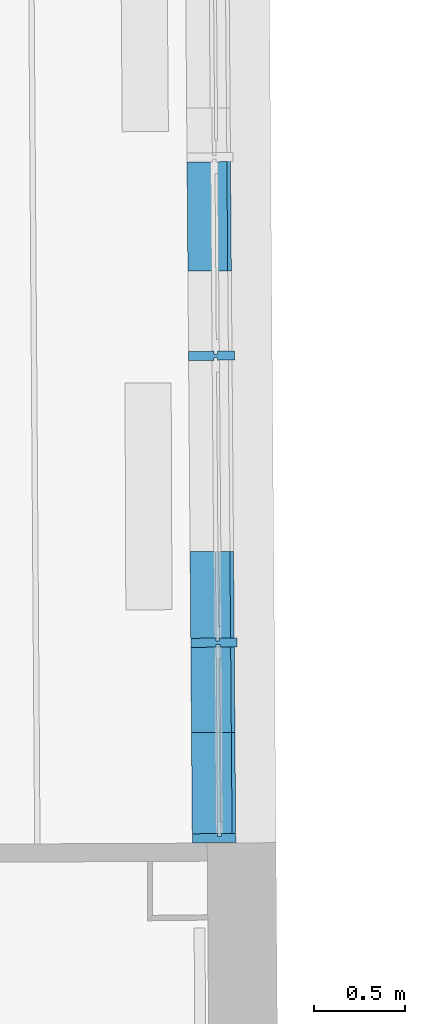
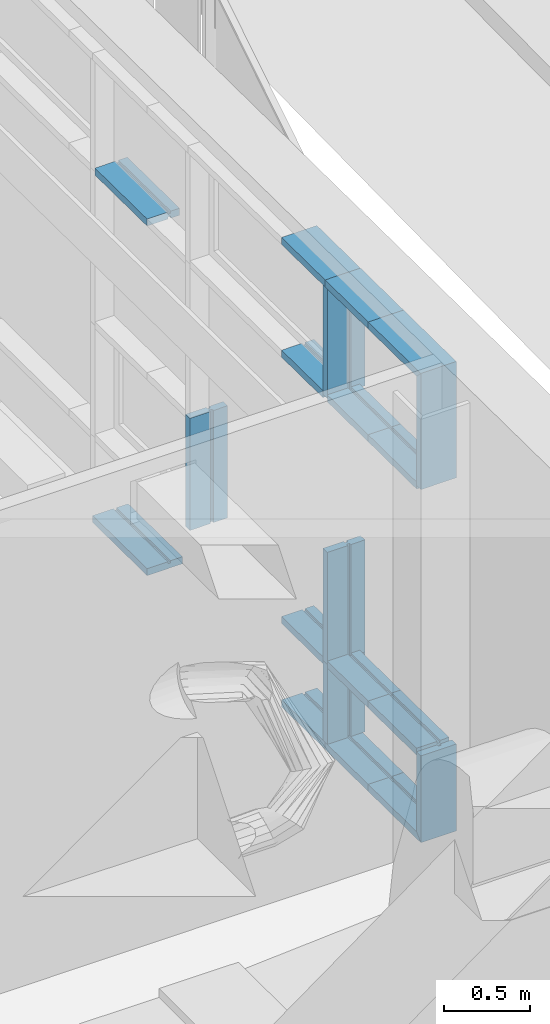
# One storey, part 119 of 158: 20 building element parts, 1 element without a shape of its own.
"""IFC2X3 building model written with IfcOpenShell, lengths in metres."""

from ifc_helpers import new_model, entity, si_unit, converted_unit, derived_unit, money_unit, direction, frame, origin_with_axes, place, context, subcontext, project, spatial, faceted_brep, material, type_object, element, aggregate, save


model = new_model("IFC2X3")

# Units and contexts
model_context = context("Model", 3, precision=1e-05, world=origin_with_axes(), true_north=direction((0.0, 1.0)))
body_context = subcontext(model_context, "Body", "Model", "MODEL_VIEW")
ifc_project = project(units=[si_unit("LENGTHUNIT", "METRE"), si_unit("AREAUNIT", "SQUARE_METRE"), si_unit("VOLUMEUNIT", "CUBIC_METRE"), converted_unit("PLANEANGLEUNIT", "DEGREE", entity("IfcPlaneAngleMeasure", 0.0174532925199), si_unit("PLANEANGLEUNIT", "RADIAN"), dimensions=[0, 0, 0, 0, 0, 0, 0]), money_unit("EUR"), converted_unit("TIMEUNIT", "Year", entity("IfcTimeMeasure", 31556926.0), si_unit("TIMEUNIT", "SECOND"), dimensions=[0, 0, 1, 0, 0, 0, 0]), si_unit("MASSUNIT", "GRAM", prefix="KILO"), si_unit("THERMODYNAMICTEMPERATUREUNIT", "DEGREE_CELSIUS"), si_unit("LUMINOUSINTENSITYUNIT", "LUMEN"), si_unit("ENERGYUNIT", "JOULE", prefix="MEGA"), derived_unit("THERMALCONDUCTANCEUNIT", [(si_unit("POWERUNIT", "WATT"), 1), (si_unit("LENGTHUNIT", "METRE"), -1), (si_unit("THERMODYNAMICTEMPERATUREUNIT", "KELVIN"), -1)]), derived_unit("SPECIFICHEATCAPACITYUNIT", [(si_unit("ENERGYUNIT", "JOULE"), 1), (si_unit("MASSUNIT", "GRAM", prefix="KILO"), -1), (si_unit("THERMODYNAMICTEMPERATUREUNIT", "KELVIN"), -1)]), derived_unit("MASSDENSITYUNIT", [(si_unit("MASSUNIT", "GRAM", prefix="KILO"), 1), (si_unit("VOLUMEUNIT", "CUBIC_METRE"), -1)])], contexts=[model_context])

# Site, building, storey
site_placement = place(None, origin_with_axes())
site = spatial("IfcSite", under=ifc_project, at=site_placement, Name="Gelände", CompositionType="ELEMENT")
building_placement = place(site_placement, origin_with_axes())
building = spatial("IfcBuilding", under=site, at=building_placement, Name="Gebäude", CompositionType="ELEMENT")
storey_placement = place(building_placement, origin_with_axes())
storey = spatial("IfcBuildingStorey", under=building, at=storey_placement, Name="ERDGESCHOSS", CompositionType="ELEMENT", Elevation=0.0)

# Proxy, building element parts
building_element_proxy_type = type_object("IfcBuildingElementProxyType", Name="Fassadentyp", PredefinedType="NOTDEFINED")
proxy_placement = place(storey_placement, frame((-15.5457352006, 40.9565245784, 1.34043905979), z_axis=(0.0, 0.0, 1.0), x_axis=(1.0, 0.0, 0.0)))
proxy = element("IfcBuildingElementProxy", 1, at=proxy_placement, inside=storey, type_object=building_element_proxy_type, Name="Fassade-002")
ifc_material = material(Name="53_Metall, Aluminium")
building_element_part_1_placement = place(proxy_placement, origin_with_axes())
building_element_part_1 = element("IfcBuildingElementPart", 2, at=building_element_part_1_placement, material=ifc_material, Name="53_Metall, Aluminium", context=body_context, shape_type="Brep", body=[
    faceted_brep([(0.0248470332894, -4.47847925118, 1.41999994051), (0.0448464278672, -4.4783236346, 1.41999994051), (0.0449631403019, -4.49332318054, 1.41999994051), (0.139960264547, -4.49258400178, 1.41999994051), (0.139571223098, -4.44258551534, 1.41999994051), (0.0445740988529, -4.44332469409, 1.41999994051), (0.0446908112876, -4.45832424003, 1.41999994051), (0.0246914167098, -4.45847985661, 1.41999994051), (0.0245747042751, -4.44348031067, 1.41999994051), (-0.11542105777, -4.44456962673, 1.41999994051), (-0.115032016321, -4.49456811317, 1.41999994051), (0.0249637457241, -4.49347879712, 1.41999994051), (0.0248470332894, -4.47847925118, 0.619999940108), (0.0448464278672, -4.4783236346, 0.619999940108), (0.0449631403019, -4.49332318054, 0.619999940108), (0.139960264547, -4.49258400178, 0.619999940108), (0.139571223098, -4.44258551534, 0.619999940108), (0.0445740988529, -4.44332469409, 0.619999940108), (0.0446908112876, -4.45832424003, 0.619999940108), (0.0246914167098, -4.45847985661, 0.619999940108), (0.0245747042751, -4.44348031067, 0.619999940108), (-0.11542105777, -4.44456962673, 0.619999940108), (-0.115032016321, -4.49456811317, 0.619999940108), (0.0249637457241, -4.49347879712, 0.619999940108)], [[[0, 1, 2, 3, 4, 5, 6, 7, 8, 9, 10, 11]], [[0, 12, 13, 1]], [[1, 13, 14, 2]], [[14, 15, 3, 2]], [[3, 15, 16, 4]], [[17, 5, 4, 16]], [[5, 17, 18, 6]], [[7, 6, 18, 19]], [[8, 7, 19, 20]], [[8, 20, 21, 9]], [[9, 21, 22, 10]], [[11, 10, 22, 23]], [[11, 23, 12, 0]], [[13, 12, 23, 22, 21, 20, 19, 18, 17, 16, 15, 14]]]),
])
building_element_part_2_placement = place(proxy_placement, origin_with_axes())
building_element_part_2 = element("IfcBuildingElementPart", 3, at=building_element_part_2_placement, material=ifc_material, Name="53_Metall, Aluminium", context=body_context, shape_type="Brep", body=[
    faceted_brep([(0.0211235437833, -3.99994710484, 0.035), (0.0211235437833, -3.99994710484, 0.05), (-0.118872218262, -4.00103642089, 0.05), (-0.118872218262, -4.00103642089, 0.0), (0.121120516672, -3.99916902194, 0.0), (0.121120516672, -3.99916902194, 0.05), (0.0411229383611, -3.99979148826, 0.05), (0.0411229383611, -3.99979148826, 0.035), (0.0162378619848, -3.37205335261, 0.035), (0.0162378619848, -3.37205335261, 0.05), (-0.12375790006, -3.37314266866, 0.05), (-0.12375790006, -3.37314266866, 0.0), (0.116234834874, -3.37127526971, 0.0), (0.116234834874, -3.37127526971, 0.05), (0.0362372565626, -3.37189773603, 0.05), (0.0362372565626, -3.37189773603, 0.035)], [[[0, 1, 2, 3, 4, 5, 6, 7]], [[0, 8, 9, 1]], [[9, 10, 2, 1]], [[10, 11, 3, 2]], [[11, 12, 4, 3]], [[12, 13, 5, 4]], [[6, 5, 13, 14]], [[14, 15, 7, 6]], [[7, 15, 8, 0]], [[8, 15, 14, 13, 12, 11, 10, 9]]]),
])
building_element_part_3_placement = place(proxy_placement, origin_with_axes())
building_element_part_3 = element("IfcBuildingElementPart", 4, at=building_element_part_3_placement, material=ifc_material, Name="53_Metall, Aluminium", context=body_context, shape_type="Brep", body=[
    faceted_brep([(0.0371786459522, -6.06330259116, 0.619999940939), (0.05717804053, -6.06314697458, 0.619999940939), (0.0572947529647, -6.07814652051, 0.619999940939), (0.152291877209, -6.07740734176, 0.619999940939), (0.15190283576, -6.02740885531, 0.619999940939), (0.0569057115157, -6.02814803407, 0.619999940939), (0.0570224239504, -6.04314758, 0.619999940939), (0.0370230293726, -6.04330319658, 0.619999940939), (0.0369063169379, -6.02830365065, 0.619999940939), (-0.103089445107, -6.0293929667, 0.619999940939), (-0.102700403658, -6.07939145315, 0.619999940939), (0.0372953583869, -6.07830213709, 0.619999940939), (0.0371786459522, -6.06330259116, 0.0500000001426), (0.05717804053, -6.06314697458, 0.0499999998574), (0.0572947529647, -6.07814652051, 0.0499999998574), (0.152291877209, -6.07740734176, 0.0499999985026), (0.15190283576, -6.02740885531, 0.0499999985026), (0.0569057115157, -6.02814803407, 0.0499999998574), (0.0570224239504, -6.04314758, 0.0499999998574), (0.0370230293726, -6.04330319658, 0.0500000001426), (0.0369063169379, -6.02830365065, 0.0500000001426), (-0.103089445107, -6.0293929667, 0.0500000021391), (-0.102700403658, -6.07939145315, 0.0500000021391), (0.0372953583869, -6.07830213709, 0.0500000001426)], [[[0, 1, 2, 3, 4, 5, 6, 7, 8, 9, 10, 11]], [[0, 12, 13, 1]], [[1, 13, 14, 2]], [[14, 15, 3, 2]], [[4, 3, 15, 16]], [[17, 5, 4, 16]], [[5, 17, 18, 6]], [[7, 6, 18, 19]], [[8, 7, 19, 20]], [[8, 20, 21, 9]], [[10, 9, 21, 22]], [[11, 10, 22, 23]], [[11, 23, 12, 0]], [[13, 12, 23, 22, 21, 20, 19, 18, 17, 16, 15, 14]]]),
])
building_element_part_4_placement = place(proxy_placement, origin_with_axes())
building_element_part_4 = element("IfcBuildingElementPart", 5, at=building_element_part_4_placement, material=ifc_material, Name="53_Metall, Aluminium", context=body_context, shape_type="Brep", body=[
    faceted_brep([(0.0371008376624, -6.05330289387, 3.31499987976), (0.0571002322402, -6.05314727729, 3.31499987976), (0.0571002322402, -6.05314727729, 3.29999987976), (0.137097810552, -6.05252481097, 3.29999987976), (0.137097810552, -6.05252481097, 3.34999987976), (-0.102894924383, -6.05439220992, 3.34999987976), (-0.102894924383, -6.05439220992, 3.29999987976), (0.0371008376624, -6.05330289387, 3.29999987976), (0.0331838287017, -5.54990018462, 3.31499987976), (0.0531832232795, -5.54974456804, 3.31499987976), (0.0531832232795, -5.54974456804, 3.29999987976), (0.133180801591, -5.54912210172, 3.29999987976), (0.133180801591, -5.54912210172, 3.34999987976), (-0.106811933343, -5.55098950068, 3.34999987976), (-0.106811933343, -5.55098950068, 3.29999987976), (0.0331838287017, -5.54990018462, 3.29999987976)], [[[0, 1, 2, 3, 4, 5, 6, 7]], [[1, 0, 8, 9]], [[10, 2, 1, 9]], [[2, 10, 11, 3]], [[12, 4, 3, 11]], [[13, 5, 4, 12]], [[14, 6, 5, 13]], [[15, 7, 6, 14]], [[0, 7, 15, 8]], [[8, 15, 14, 13, 12, 11, 10, 9]]]),
])
building_element_part_5_placement = place(proxy_placement, origin_with_axes())
building_element_part_5 = element("IfcBuildingElementPart", 6, at=building_element_part_5_placement, material=ifc_material, Name="53_Metall, Aluminium", context=body_context, shape_type="Brep", body=[
    faceted_brep([(0.0371008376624, -6.05330289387, 0.035), (0.0371008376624, -6.05330289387, 0.05), (-0.102894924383, -6.05439220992, 0.05), (-0.102894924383, -6.05439220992, 0.0), (0.137097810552, -6.05252481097, 0.0), (0.137097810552, -6.05252481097, 0.05), (0.0571002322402, -6.05314727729, 0.05), (0.0571002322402, -6.05314727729, 0.035), (0.0331838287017, -5.54990018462, 0.035), (0.0331838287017, -5.54990018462, 0.05), (-0.106811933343, -5.55098950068, 0.05), (-0.106811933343, -5.55098950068, 0.0), (0.133180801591, -5.54912210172, 0.0), (0.133180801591, -5.54912210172, 0.05), (0.0531832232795, -5.54974456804, 0.05), (0.0531832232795, -5.54974456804, 0.035)], [[[0, 1, 2, 3, 4, 5, 6, 7]], [[0, 8, 9, 1]], [[9, 10, 2, 1]], [[10, 11, 3, 2]], [[11, 12, 4, 3]], [[12, 13, 5, 4]], [[6, 5, 13, 14]], [[14, 15, 7, 6]], [[7, 15, 8, 0]], [[8, 15, 14, 13, 12, 11, 10, 9]]]),
])
building_element_part_6_placement = place(proxy_placement, origin_with_axes())
building_element_part_6 = element("IfcBuildingElementPart", 7, at=building_element_part_6_placement, material=ifc_material, Name="53_Metall, Aluminium", context=body_context, shape_type="Brep", body=[
    faceted_brep([(0.0211235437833, -3.99994710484, 2.50999994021), (0.0411229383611, -3.99979148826, 2.50999994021), (0.0411229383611, -3.99979148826, 2.49499994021), (0.101121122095, -3.99932463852, 2.49499994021), (0.101121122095, -3.99932463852, 2.54499994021), (0.0411229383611, -3.99979148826, 2.54499994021), (0.0411229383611, -3.99979148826, 2.52999994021), (0.0211235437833, -3.99994710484, 2.52999994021), (0.0211235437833, -3.99994710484, 2.54499994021), (-0.118872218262, -4.00103642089, 2.54499994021), (-0.118872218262, -4.00103642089, 2.49499994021), (0.0211235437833, -3.99994710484, 2.49499994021), (0.0164323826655, -3.3970525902, 2.50999994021), (0.0364317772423, -3.39689697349, 2.50999994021), (0.0364317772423, -3.39689697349, 2.49499994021), (0.0964299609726, -3.39643012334, 2.49499994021), (0.0964299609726, -3.39643012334, 2.54499994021), (0.0364317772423, -3.39689697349, 2.54499994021), (0.0364317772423, -3.39689697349, 2.52999994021), (0.0164323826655, -3.3970525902, 2.52999994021), (0.0164323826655, -3.3970525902, 2.54499994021), (-0.123563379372, -3.39814190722, 2.54499994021), (-0.123563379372, -3.39814190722, 2.49499994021), (0.0164323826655, -3.3970525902, 2.49499994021)], [[[0, 1, 2, 3, 4, 5, 6, 7, 8, 9, 10, 11]], [[0, 12, 13, 1]], [[1, 13, 14, 2]], [[14, 15, 3, 2]], [[4, 3, 15, 16]], [[17, 5, 4, 16]], [[5, 17, 18, 6]], [[7, 6, 18, 19]], [[8, 7, 19, 20]], [[8, 20, 21, 9]], [[10, 9, 21, 22]], [[11, 10, 22, 23]], [[11, 23, 12, 0]], [[13, 12, 23, 22, 21, 20, 19, 18, 17, 16, 15, 14]]]),
])
building_element_part_7_placement = place(proxy_placement, origin_with_axes())
building_element_part_7 = element("IfcBuildingElementPart", 8, at=building_element_part_7_placement, material=ifc_material, Name="53_Metall, Aluminium", context=body_context, shape_type="Brep", body=[
    faceted_brep([(0.0409646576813, -6.54986991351, 2.50999994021), (0.0609640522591, -6.54971429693, 2.50999994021), (0.0609640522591, -6.54971429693, 2.49499994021), (0.120962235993, -6.54924744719, 2.49499994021), (0.120962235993, -6.54924744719, 2.54499994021), (0.0609640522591, -6.54971429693, 2.54499994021), (0.0609640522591, -6.54971429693, 2.52999994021), (0.0409646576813, -6.54986991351, 2.52999994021), (0.0409646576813, -6.54986991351, 2.54499994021), (-0.0990311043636, -6.55095922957, 2.54499994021), (-0.0990311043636, -6.55095922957, 2.49499994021), (0.0409646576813, -6.54986991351, 2.49499994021), (0.0372953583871, -6.07830213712, 2.50999994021), (0.0572947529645, -6.07814652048, 2.50999994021), (0.0572947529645, -6.07814652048, 2.49499994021), (0.117292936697, -6.07767967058, 2.49499994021), (0.117292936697, -6.07767967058, 2.54499994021), (0.0572947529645, -6.07814652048, 2.54499994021), (0.0572947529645, -6.07814652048, 2.52999994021), (0.0372953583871, -6.07830213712, 2.52999994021), (0.0372953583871, -6.07830213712, 2.54499994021), (-0.102700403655, -6.07939145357, 2.54499994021), (-0.102700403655, -6.07939145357, 2.49499994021), (0.0372953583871, -6.07830213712, 2.49499994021)], [[[0, 1, 2, 3, 4, 5, 6, 7, 8, 9, 10, 11]], [[0, 12, 13, 1]], [[1, 13, 14, 2]], [[14, 15, 3, 2]], [[4, 3, 15, 16]], [[17, 5, 4, 16]], [[5, 17, 18, 6]], [[7, 6, 18, 19]], [[8, 7, 19, 20]], [[8, 20, 21, 9]], [[10, 9, 21, 22]], [[11, 10, 22, 23]], [[11, 23, 12, 0]], [[13, 12, 23, 22, 21, 20, 19, 18, 17, 16, 15, 14]]]),
])
building_element_part_8_placement = place(proxy_placement, origin_with_axes())
building_element_part_8 = element("IfcBuildingElementPart", 9, at=building_element_part_8_placement, material=ifc_material, Name="53_Metall, Aluminium", context=body_context, shape_type="Brep", body=[
    faceted_brep([(0.0369063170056, -6.02830365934, 0.60999994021), (0.0569057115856, -6.02814804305, 0.60999994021), (0.0569057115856, -6.02814804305, 0.59499994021), (0.116903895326, -6.02768119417, 0.59499994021), (0.116903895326, -6.02768119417, 0.64499994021), (0.0569057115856, -6.02814804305, 0.64499994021), (0.0569057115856, -6.02814804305, 0.62999994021), (0.0369063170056, -6.02830365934, 0.62999994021), (0.0369063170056, -6.02830365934, 0.64499994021), (-0.103089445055, -6.0293929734, 0.64499994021), (-0.103089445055, -6.0293929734, 0.59499994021), (0.0369063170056, -6.02830365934, 0.59499994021), (0.0331838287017, -5.54990018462, 0.60999994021), (0.0531832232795, -5.54974456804, 0.60999994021), (0.0531832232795, -5.54974456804, 0.59499994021), (0.113181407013, -5.5492777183, 0.59499994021), (0.113181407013, -5.5492777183, 0.64499994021), (0.0531832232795, -5.54974456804, 0.64499994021), (0.0531832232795, -5.54974456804, 0.62999994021), (0.0331838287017, -5.54990018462, 0.62999994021), (0.0331838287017, -5.54990018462, 0.64499994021), (-0.106811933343, -5.55098950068, 0.64499994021), (-0.106811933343, -5.55098950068, 0.59499994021), (0.0331838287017, -5.54990018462, 0.59499994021)], [[[0, 1, 2, 3, 4, 5, 6, 7, 8, 9, 10, 11]], [[0, 12, 13, 1]], [[1, 13, 14, 2]], [[14, 15, 3, 2]], [[3, 15, 16, 4]], [[17, 5, 4, 16]], [[5, 17, 18, 6]], [[7, 6, 18, 19]], [[8, 7, 19, 20]], [[8, 20, 21, 9]], [[9, 21, 22, 10]], [[11, 10, 22, 23]], [[11, 23, 12, 0]], [[13, 12, 23, 22, 21, 20, 19, 18, 17, 16, 15, 14]]]),
])
building_element_part_9_placement = place(proxy_placement, origin_with_axes())
building_element_part_9 = element("IfcBuildingElementPart", 10, at=building_element_part_9_placement, material=ifc_material, Name="53_Metall, Aluminium", context=body_context, shape_type="Brep", body=[
    faceted_brep([(0.0371786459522, -6.06330259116, 3.29999987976), (0.05717804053, -6.06314697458, 3.29999987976), (0.0572947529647, -6.07814652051, 3.29999987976), (0.152291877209, -6.07740734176, 3.29999987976), (0.15190283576, -6.02740885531, 3.29999987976), (0.0569057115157, -6.02814803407, 3.29999987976), (0.0570224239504, -6.04314758, 3.29999987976), (0.0370230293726, -6.04330319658, 3.29999987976), (0.0369063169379, -6.02830365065, 3.29999987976), (-0.103089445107, -6.0293929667, 3.29999987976), (-0.102700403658, -6.07939145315, 3.29999987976), (0.0372953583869, -6.07830213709, 3.29999987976), (0.0371786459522, -6.06330259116, 2.5199999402), (0.05717804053, -6.06314697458, 2.5199999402), (0.0572947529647, -6.07814652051, 2.5199999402), (0.152291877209, -6.07740734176, 2.5199999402), (0.15190283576, -6.02740885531, 2.5199999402), (0.0569057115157, -6.02814803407, 2.5199999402), (0.0570224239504, -6.04314758, 2.5199999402), (0.0370230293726, -6.04330319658, 2.5199999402), (0.0369063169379, -6.02830365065, 2.5199999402), (-0.103089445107, -6.0293929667, 2.5199999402), (-0.102700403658, -6.07939145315, 2.5199999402), (0.0372953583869, -6.07830213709, 2.5199999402)], [[[0, 1, 2, 3, 4, 5, 6, 7, 8, 9, 10, 11]], [[0, 12, 13, 1]], [[1, 13, 14, 2]], [[14, 15, 3, 2]], [[3, 15, 16, 4]], [[17, 5, 4, 16]], [[5, 17, 18, 6]], [[7, 6, 18, 19]], [[8, 7, 19, 20]], [[8, 20, 21, 9]], [[9, 21, 22, 10]], [[11, 10, 22, 23]], [[11, 23, 12, 0]], [[13, 12, 23, 22, 21, 20, 19, 18, 17, 16, 15, 14]]]),
])
building_element_part_10_placement = place(proxy_placement, origin_with_axes())
building_element_part_10 = element("IfcBuildingElementPart", 11, at=building_element_part_10_placement, material=ifc_material, Name="53_Metall, Aluminium", context=body_context, shape_type="Brep", body=[
    faceted_brep([(0.037178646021, -6.0633026, 1.41999994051), (0.0571780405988, -6.06314698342, 1.41999994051), (0.0572947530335, -6.07814652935, 1.41999994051), (0.152291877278, -6.0774073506, 1.41999994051), (0.151902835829, -6.02740886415, 1.41999994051), (0.0569057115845, -6.02814804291, 1.41999994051), (0.0570224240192, -6.04314758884, 1.41999994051), (0.0370230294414, -6.04330320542, 1.41999994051), (0.0369063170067, -6.02830365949, 1.41999994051), (-0.103089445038, -6.02939297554, 1.41999994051), (-0.102700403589, -6.07939146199, 1.41999994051), (0.0372953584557, -6.07830214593, 1.41999994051), (0.037178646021, -6.0633026, 0.619999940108), (0.0571780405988, -6.06314698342, 0.619999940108), (0.0572947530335, -6.07814652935, 0.619999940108), (0.152291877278, -6.0774073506, 0.619999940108), (0.151902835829, -6.02740886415, 0.619999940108), (0.0569057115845, -6.02814804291, 0.619999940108), (0.0570224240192, -6.04314758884, 0.619999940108), (0.0370230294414, -6.04330320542, 0.619999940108), (0.0369063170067, -6.02830365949, 0.619999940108), (-0.103089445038, -6.02939297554, 0.619999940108), (-0.102700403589, -6.07939146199, 0.619999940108), (0.0372953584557, -6.07830214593, 0.619999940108)], [[[0, 1, 2, 3, 4, 5, 6, 7, 8, 9, 10, 11]], [[0, 12, 13, 1]], [[1, 13, 14, 2]], [[14, 15, 3, 2]], [[3, 15, 16, 4]], [[17, 5, 4, 16]], [[5, 17, 18, 6]], [[7, 6, 18, 19]], [[8, 7, 19, 20]], [[8, 20, 21, 9]], [[9, 21, 22, 10]], [[11, 10, 22, 23]], [[11, 23, 12, 0]], [[13, 12, 23, 22, 21, 20, 19, 18, 17, 16, 15, 14]]]),
])
building_element_part_11_placement = place(proxy_placement, origin_with_axes())
building_element_part_11 = element("IfcBuildingElementPart", 12, at=building_element_part_11_placement, material=ifc_material, Name="53_Metall, Aluminium", context=body_context, shape_type="Brep", body=[
    faceted_brep([(0.04096465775, -6.54986992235, 0.60999994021), (0.0609640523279, -6.54971430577, 0.60999994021), (0.0609640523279, -6.54971430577, 0.59499994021), (0.120962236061, -6.54924745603, 0.59499994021), (0.120962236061, -6.54924745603, 0.64499994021), (0.0609640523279, -6.54971430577, 0.64499994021), (0.0609640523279, -6.54971430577, 0.62999994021), (0.04096465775, -6.54986992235, 0.62999994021), (0.04096465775, -6.54986992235, 0.64499994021), (-0.0990311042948, -6.55095923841, 0.64499994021), (-0.0990311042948, -6.55095923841, 0.59499994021), (0.04096465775, -6.54986992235, 0.59499994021), (0.0372953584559, -6.07830214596, 0.60999994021), (0.0572947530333, -6.07814652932, 0.60999994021), (0.0572947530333, -6.07814652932, 0.59499994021), (0.117292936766, -6.07767967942, 0.59499994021), (0.117292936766, -6.07767967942, 0.64499994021), (0.0572947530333, -6.07814652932, 0.64499994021), (0.0572947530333, -6.07814652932, 0.62999994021), (0.0372953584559, -6.07830214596, 0.62999994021), (0.0372953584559, -6.07830214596, 0.64499994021), (-0.102700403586, -6.07939146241, 0.64499994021), (-0.102700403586, -6.07939146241, 0.59499994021), (0.0372953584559, -6.07830214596, 0.59499994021)], [[[0, 1, 2, 3, 4, 5, 6, 7, 8, 9, 10, 11]], [[0, 12, 13, 1]], [[1, 13, 14, 2]], [[14, 15, 3, 2]], [[4, 3, 15, 16]], [[17, 5, 4, 16]], [[5, 17, 18, 6]], [[7, 6, 18, 19]], [[8, 7, 19, 20]], [[8, 20, 21, 9]], [[10, 9, 21, 22]], [[11, 10, 22, 23]], [[11, 23, 12, 0]], [[13, 12, 23, 22, 21, 20, 19, 18, 17, 16, 15, 14]]]),
])
building_element_part_12_placement = place(proxy_placement, origin_with_axes())
building_element_part_12 = element("IfcBuildingElementPart", 13, at=building_element_part_12_placement, material=ifc_material, Name="53_Metall, Aluminium", context=body_context, shape_type="Brep", body=[
    faceted_brep([(0.0409646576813, -6.54986991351, 0.035), (0.0409646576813, -6.54986991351, 0.05), (-0.0990311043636, -6.55095922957, 0.05), (-0.0990311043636, -6.55095922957, 0.0), (0.14096163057, -6.54909183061, 0.0), (0.14096163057, -6.54909183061, 0.05), (0.0609640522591, -6.54971429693, 0.05), (0.0609640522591, -6.54971429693, 0.035), (0.0371008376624, -6.05330289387, 0.035), (0.0371008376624, -6.05330289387, 0.05), (-0.102894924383, -6.05439220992, 0.05), (-0.102894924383, -6.05439220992, 0.0), (0.137097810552, -6.05252481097, 0.0), (0.137097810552, -6.05252481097, 0.05), (0.0571002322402, -6.05314727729, 0.05), (0.0571002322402, -6.05314727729, 0.035)], [[[0, 1, 2, 3, 4, 5, 6, 7]], [[0, 8, 9, 1]], [[9, 10, 2, 1]], [[10, 11, 3, 2]], [[11, 12, 4, 3]], [[12, 13, 5, 4]], [[6, 5, 13, 14]], [[14, 15, 7, 6]], [[7, 15, 8, 0]], [[8, 15, 14, 13, 12, 11, 10, 9]]]),
])
building_element_part_13_placement = place(proxy_placement, origin_with_axes())
building_element_part_13 = element("IfcBuildingElementPart", 14, at=building_element_part_13_placement, material=ifc_material, Name="53_Metall, Aluminium", context=body_context, shape_type="Brep", body=[
    faceted_brep([(0.0369063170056, -6.02830365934, 2.50999994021), (0.0569057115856, -6.02814804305, 2.50999994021), (0.0569057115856, -6.02814804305, 2.49499994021), (0.116903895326, -6.02768119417, 2.49499994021), (0.116903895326, -6.02768119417, 2.54499994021), (0.0569057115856, -6.02814804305, 2.54499994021), (0.0569057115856, -6.02814804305, 2.52999994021), (0.0369063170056, -6.02830365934, 2.52999994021), (0.0369063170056, -6.02830365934, 2.54499994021), (-0.103089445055, -6.0293929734, 2.54499994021), (-0.103089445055, -6.0293929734, 2.49499994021), (0.0369063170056, -6.02830365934, 2.49499994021), (0.0331838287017, -5.54990018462, 2.50999994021), (0.0531832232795, -5.54974456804, 2.50999994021), (0.0531832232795, -5.54974456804, 2.49499994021), (0.113181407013, -5.5492777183, 2.49499994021), (0.113181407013, -5.5492777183, 2.54499994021), (0.0531832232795, -5.54974456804, 2.54499994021), (0.0531832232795, -5.54974456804, 2.52999994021), (0.0331838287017, -5.54990018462, 2.52999994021), (0.0331838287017, -5.54990018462, 2.54499994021), (-0.106811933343, -5.55098950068, 2.54499994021), (-0.106811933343, -5.55098950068, 2.49499994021), (0.0331838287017, -5.54990018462, 2.49499994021)], [[[0, 1, 2, 3, 4, 5, 6, 7, 8, 9, 10, 11]], [[0, 12, 13, 1]], [[1, 13, 14, 2]], [[14, 15, 3, 2]], [[3, 15, 16, 4]], [[17, 5, 4, 16]], [[5, 17, 18, 6]], [[7, 6, 18, 19]], [[8, 7, 19, 20]], [[8, 20, 21, 9]], [[9, 21, 22, 10]], [[11, 10, 22, 23]], [[11, 23, 12, 0]], [[13, 12, 23, 22, 21, 20, 19, 18, 17, 16, 15, 14]]]),
])
building_element_part_14_placement = place(proxy_placement, origin_with_axes())
building_element_part_14 = element("IfcBuildingElementPart", 15, at=building_element_part_14_placement, material=ifc_material, Name="53_Metall, Aluminium", context=body_context, shape_type="Brep", body=[
    faceted_brep([(0.04530917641, -7.10821494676, 2.50999994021), (0.0653085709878, -7.10805933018, 2.50999994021), (0.0653085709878, -7.10805933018, 2.49499994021), (0.125306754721, -7.10759248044, 2.49499994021), (0.125306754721, -7.10759248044, 2.54499994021), (0.0653085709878, -7.10805933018, 2.54499994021), (0.0653085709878, -7.10805933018, 2.52999994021), (0.04530917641, -7.10821494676, 2.52999994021), (0.04530917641, -7.10821494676, 2.54499994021), (-0.0946865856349, -7.10930426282, 2.54499994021), (-0.0946865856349, -7.10930426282, 2.49499994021), (0.04530917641, -7.10821494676, 2.49499994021), (0.0409646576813, -6.54986991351, 2.50999994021), (0.0609640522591, -6.54971429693, 2.50999994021), (0.0609640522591, -6.54971429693, 2.49499994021), (0.120962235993, -6.54924744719, 2.49499994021), (0.120962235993, -6.54924744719, 2.54499994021), (0.0609640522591, -6.54971429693, 2.54499994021), (0.0609640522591, -6.54971429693, 2.52999994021), (0.0409646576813, -6.54986991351, 2.52999994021), (0.0409646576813, -6.54986991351, 2.54499994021), (-0.0990311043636, -6.55095922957, 2.54499994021), (-0.0990311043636, -6.55095922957, 2.49499994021), (0.0409646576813, -6.54986991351, 2.49499994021)], [[[0, 1, 2, 3, 4, 5, 6, 7, 8, 9, 10, 11]], [[0, 12, 13, 1]], [[1, 13, 14, 2]], [[14, 15, 3, 2]], [[3, 15, 16, 4]], [[17, 5, 4, 16]], [[5, 17, 18, 6]], [[7, 6, 18, 19]], [[8, 7, 19, 20]], [[8, 20, 21, 9]], [[9, 21, 22, 10]], [[11, 10, 22, 23]], [[11, 23, 12, 0]], [[13, 12, 23, 22, 21, 20, 19, 18, 17, 16, 15, 14]]]),
])
building_element_part_15_placement = place(proxy_placement, origin_with_axes())
building_element_part_15 = element("IfcBuildingElementPart", 16, at=building_element_part_15_placement, material=ifc_material, Name="53_Metall, Aluminium", context=body_context, shape_type="Brep", body=[
    faceted_brep([(0.0454258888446, -7.12321449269, 3.31499987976), (0.04530917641, -7.10821494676, 3.29999987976), (-0.0946865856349, -7.10930426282, 3.29999987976), (-0.0942975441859, -7.15930274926, 3.34999987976), (0.145695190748, -7.15743535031, 3.34999987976), (0.145306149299, -7.10743686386, 3.29999987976), (0.0653085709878, -7.10805933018, 3.29999987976), (0.0654252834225, -7.12305887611, 3.31499987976), (0.0454258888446, -7.12321449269, 2.51999994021), (0.04530917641, -7.10821494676, 2.51999994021), (-0.0946865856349, -7.10930426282, 2.51999994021), (-0.0942975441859, -7.15930274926, 2.51999994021), (0.145695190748, -7.15743535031, 2.51999994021), (0.145306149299, -7.10743686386, 2.51999994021), (0.0653085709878, -7.10805933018, 2.51999994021), (0.0654252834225, -7.12305887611, 2.51999994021)], [[[0, 1, 2, 3, 4, 5, 6, 7]], [[0, 8, 9, 1]], [[9, 10, 2, 1]], [[10, 11, 3, 2]], [[11, 12, 4, 3]], [[12, 13, 5, 4]], [[6, 5, 13, 14]], [[14, 15, 7, 6]], [[7, 15, 8, 0]], [[8, 15, 14, 13, 12, 11, 10, 9]]]),
])
building_element_part_16_placement = place(proxy_placement, origin_with_axes())
building_element_part_16 = element("IfcBuildingElementPart", 17, at=building_element_part_16_placement, material=ifc_material, Name="53_Metall, Aluminium", context=body_context, shape_type="Brep", body=[
    faceted_brep([(0.0454258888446, -7.12321449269, 0.61999994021), (0.04530917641, -7.10821494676, 0.61999994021), (-0.0946865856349, -7.10930426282, 0.61999994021), (-0.0942975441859, -7.15930274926, 0.61999994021), (0.145695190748, -7.15743535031, 0.61999994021), (0.145306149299, -7.10743686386, 0.61999994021), (0.0653085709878, -7.10805933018, 0.61999994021), (0.0654252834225, -7.12305887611, 0.61999994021), (0.0454258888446, -7.12321449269, 0.035), (0.04530917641, -7.10821494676, 0.05), (-0.0946865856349, -7.10930426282, 0.05), (-0.0942975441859, -7.15930274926, 0.0), (0.145695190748, -7.15743535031, 0.0), (0.145306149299, -7.10743686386, 0.05), (0.0653085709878, -7.10805933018, 0.05), (0.0654252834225, -7.12305887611, 0.035)], [[[0, 1, 2, 3, 4, 5, 6, 7]], [[0, 8, 9, 1]], [[9, 10, 2, 1]], [[2, 10, 11, 3]], [[3, 11, 12, 4]], [[4, 12, 13, 5]], [[6, 5, 13, 14]], [[14, 15, 7, 6]], [[7, 15, 8, 0]], [[8, 15, 14, 13, 12, 11, 10, 9]]]),
])
building_element_part_17_placement = place(proxy_placement, origin_with_axes())
building_element_part_17 = element("IfcBuildingElementPart", 18, at=building_element_part_17_placement, material=ifc_material, Name="53_Metall, Aluminium", context=body_context, shape_type="Brep", body=[
    faceted_brep([(0.0454258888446, -7.12321449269, 0.035), (0.04530917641, -7.10821494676, 0.05), (-0.0946865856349, -7.10930426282, 0.05), (-0.094297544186, -7.15930274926, 0.0), (0.145695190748, -7.15743535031, 0.0), (0.145306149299, -7.10743686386, 0.05), (0.0653085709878, -7.10805933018, 0.05), (0.0654252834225, -7.12305887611, 0.035), (0.0409646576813, -6.54986991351, 0.035), (0.0409646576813, -6.54986991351, 0.05), (-0.0990311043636, -6.55095922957, 0.05), (-0.0990311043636, -6.55095922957, 0.0), (0.14096163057, -6.54909183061, 0.0), (0.14096163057, -6.54909183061, 0.05), (0.0609640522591, -6.54971429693, 0.05), (0.0609640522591, -6.54971429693, 0.035)], [[[0, 1, 2, 3, 4, 5, 6, 7]], [[0, 8, 9, 1]], [[9, 10, 2, 1]], [[10, 11, 3, 2]], [[11, 12, 4, 3]], [[12, 13, 5, 4]], [[6, 5, 13, 14]], [[14, 15, 7, 6]], [[7, 15, 8, 0]], [[8, 15, 14, 13, 12, 11, 10, 9]]]),
])
building_element_part_18_placement = place(proxy_placement, origin_with_axes())
building_element_part_18 = element("IfcBuildingElementPart", 19, at=building_element_part_18_placement, material=ifc_material, Name="53_Metall, Aluminium", context=body_context, shape_type="Brep", body=[
    faceted_brep([(0.0409646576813, -6.54986991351, 3.31499987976), (0.0609640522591, -6.54971429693, 3.31499987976), (0.0609640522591, -6.54971429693, 3.29999987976), (0.14096163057, -6.54909183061, 3.29999987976), (0.14096163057, -6.54909183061, 3.34999987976), (-0.0990311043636, -6.55095922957, 3.34999987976), (-0.0990311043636, -6.55095922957, 3.29999987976), (0.0409646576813, -6.54986991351, 3.29999987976), (0.0371008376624, -6.05330289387, 3.31499987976), (0.0571002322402, -6.05314727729, 3.31499987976), (0.0571002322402, -6.05314727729, 3.29999987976), (0.137097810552, -6.05252481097, 3.29999987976), (0.137097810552, -6.05252481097, 3.34999987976), (-0.102894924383, -6.05439220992, 3.34999987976), (-0.102894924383, -6.05439220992, 3.29999987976), (0.0371008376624, -6.05330289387, 3.29999987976)], [[[0, 1, 2, 3, 4, 5, 6, 7]], [[1, 0, 8, 9]], [[10, 2, 1, 9]], [[2, 10, 11, 3]], [[12, 4, 3, 11]], [[13, 5, 4, 12]], [[14, 6, 5, 13]], [[15, 7, 6, 14]], [[0, 7, 15, 8]], [[8, 15, 14, 13, 12, 11, 10, 9]]]),
])
building_element_part_19_placement = place(proxy_placement, origin_with_axes())
building_element_part_19 = element("IfcBuildingElementPart", 20, at=building_element_part_19_placement, material=ifc_material, Name="53_Metall, Aluminium", context=body_context, shape_type="Brep", body=[
    faceted_brep([(0.04530917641, -7.10821494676, 0.60999994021), (0.0653085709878, -7.10805933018, 0.60999994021), (0.0653085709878, -7.10805933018, 0.59499994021), (0.125306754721, -7.10759248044, 0.59499994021), (0.125306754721, -7.10759248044, 0.64499994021), (0.0653085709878, -7.10805933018, 0.64499994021), (0.0653085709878, -7.10805933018, 0.62999994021), (0.04530917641, -7.10821494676, 0.62999994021), (0.04530917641, -7.10821494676, 0.64499994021), (-0.0946865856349, -7.10930426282, 0.64499994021), (-0.0946865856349, -7.10930426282, 0.59499994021), (0.04530917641, -7.10821494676, 0.59499994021), (0.0409646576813, -6.54986991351, 0.60999994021), (0.0609640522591, -6.54971429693, 0.60999994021), (0.0609640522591, -6.54971429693, 0.59499994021), (0.120962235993, -6.54924744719, 0.59499994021), (0.120962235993, -6.54924744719, 0.64499994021), (0.0609640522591, -6.54971429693, 0.64499994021), (0.0609640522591, -6.54971429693, 0.62999994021), (0.0409646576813, -6.54986991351, 0.62999994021), (0.0409646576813, -6.54986991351, 0.64499994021), (-0.0990311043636, -6.55095922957, 0.64499994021), (-0.0990311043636, -6.55095922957, 0.59499994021), (0.0409646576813, -6.54986991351, 0.59499994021)], [[[0, 1, 2, 3, 4, 5, 6, 7, 8, 9, 10, 11]], [[0, 12, 13, 1]], [[1, 13, 14, 2]], [[14, 15, 3, 2]], [[3, 15, 16, 4]], [[17, 5, 4, 16]], [[5, 17, 18, 6]], [[7, 6, 18, 19]], [[8, 7, 19, 20]], [[8, 20, 21, 9]], [[9, 21, 22, 10]], [[11, 10, 22, 23]], [[11, 23, 12, 0]], [[13, 12, 23, 22, 21, 20, 19, 18, 17, 16, 15, 14]]]),
])
building_element_part_20_placement = place(proxy_placement, origin_with_axes())
building_element_part_20 = element("IfcBuildingElementPart", 21, at=building_element_part_20_placement, material=ifc_material, Name="53_Metall, Aluminium", context=body_context, shape_type="Brep", body=[
    faceted_brep([(0.0454258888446, -7.12321449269, 3.31499987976), (0.0654252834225, -7.12305887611, 3.31499987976), (0.0653085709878, -7.10805933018, 3.29999987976), (0.145306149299, -7.10743686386, 3.29999987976), (0.145695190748, -7.15743535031, 3.34999987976), (-0.094297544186, -7.15930274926, 3.34999987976), (-0.0946865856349, -7.10930426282, 3.29999987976), (0.04530917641, -7.10821494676, 3.29999987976), (0.0409646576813, -6.54986991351, 3.31499987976), (0.0609640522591, -6.54971429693, 3.31499987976), (0.0609640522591, -6.54971429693, 3.29999987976), (0.14096163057, -6.54909183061, 3.29999987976), (0.14096163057, -6.54909183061, 3.34999987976), (-0.0990311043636, -6.55095922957, 3.34999987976), (-0.0990311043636, -6.55095922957, 3.29999987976), (0.0409646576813, -6.54986991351, 3.29999987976)], [[[0, 1, 2, 3, 4, 5, 6, 7]], [[1, 0, 8, 9]], [[10, 2, 1, 9]], [[2, 10, 11, 3]], [[12, 4, 3, 11]], [[13, 5, 4, 12]], [[14, 6, 5, 13]], [[15, 7, 6, 14]], [[0, 7, 15, 8]], [[8, 15, 14, 13, 12, 11, 10, 9]]]),
])
aggregate(proxy, [building_element_part_1, building_element_part_2, building_element_part_3, building_element_part_4, building_element_part_5, building_element_part_6, building_element_part_7, building_element_part_8, building_element_part_9, building_element_part_10, building_element_part_11, building_element_part_12, building_element_part_13, building_element_part_14, building_element_part_15, building_element_part_16, building_element_part_17, building_element_part_18, building_element_part_19, building_element_part_20])

save(model, "model.ifc")
